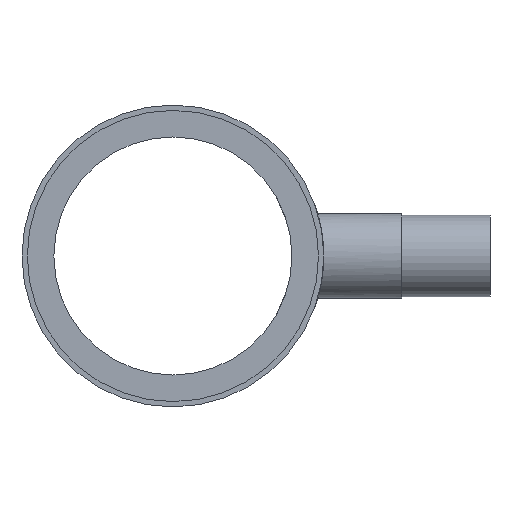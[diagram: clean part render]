
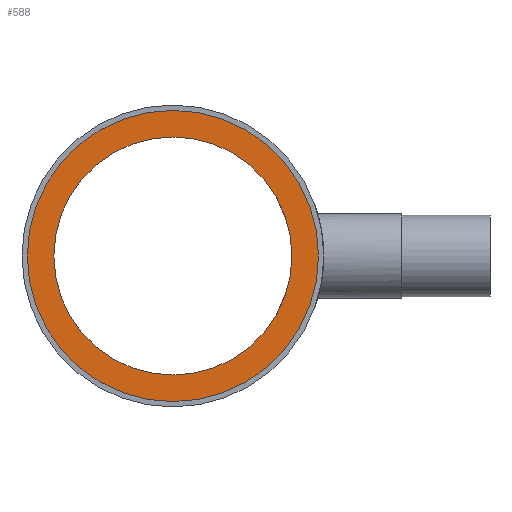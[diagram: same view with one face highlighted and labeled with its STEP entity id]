
A CAD part, front view. The second image highlights one B-rep face of the part: STEP entity #588.
In plain terms, the highlighted planar face has unit normal (0, -1, 0).
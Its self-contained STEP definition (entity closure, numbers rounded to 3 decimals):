
#197=CARTESIAN_POINT('',(-92.,-270.,0.));
#198=VERTEX_POINT('',#197);
#205=CARTESIAN_POINT('',(0.,-270.,0.));
#206=DIRECTION('',(0.,1.,0.));
#207=DIRECTION('',(1.,0.,0.));
#208=AXIS2_PLACEMENT_3D('',#205,#206,#207);
#209=CIRCLE('',#208,92.);
#210=EDGE_CURVE('',#198,#198,#209,.T.);
#552=CARTESIAN_POINT('',(-112.5,-270.,0.));
#553=VERTEX_POINT('',#552);
#554=CARTESIAN_POINT('',(0.,-270.,0.));
#555=DIRECTION('',(0.,-1.,0.));
#556=DIRECTION('',(-1.,0.,0.));
#557=AXIS2_PLACEMENT_3D('',#554,#555,#556);
#558=CIRCLE('',#557,112.5);
#559=EDGE_CURVE('',#553,#553,#558,.T.);
#577=ORIENTED_EDGE('',*,*,#559,.T.);
#578=EDGE_LOOP('',(#577));
#579=FACE_OUTER_BOUND('',#578,.T.);
#580=ORIENTED_EDGE('',*,*,#210,.T.);
#581=EDGE_LOOP('',(#580));
#582=FACE_BOUND('',#581,.T.);
#583=CARTESIAN_POINT('',(-56.25,-270.,0.));
#584=DIRECTION('',(0.,-1.,0.));
#585=DIRECTION('',(-1.,0.,0.));
#586=AXIS2_PLACEMENT_3D('',#583,#584,#585);
#587=PLANE('',#586);
#588=ADVANCED_FACE('',(#579,#582),#587,.T.);
